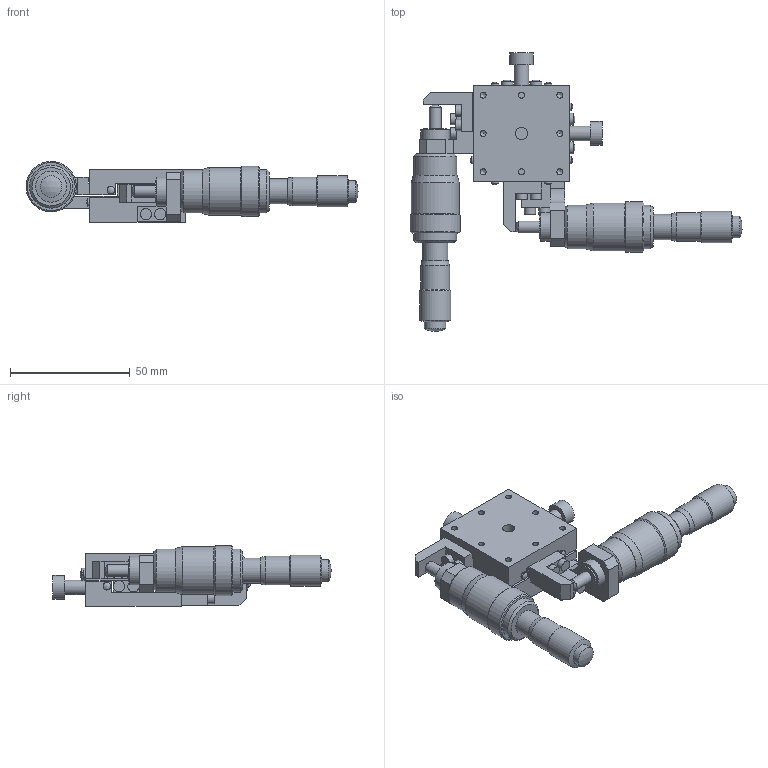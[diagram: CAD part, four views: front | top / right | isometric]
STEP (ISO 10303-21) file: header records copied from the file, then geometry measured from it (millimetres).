
FILE_DESCRIPTION( ( 'STEP AP214' ), '1' );
FILE_NAME( 'C:/Project/3D_B23-40D-配布-070508.stp', '2007-05-08T10:43:01', ( ' ' ), ( ' ' ), 'XStep 1.0', ' ', ' ' );
FILE_SCHEMA( ( 'automotive_design' ) );
Length unit declared in the file: millimetre
Products named in the file (5): 1; 2; 3; 4; 5
Bounding box: 138.46 x 116.11 x 25.5 mm (x, y, z)
Volume: 70825.5 mm3; surface area: 35797.3 mm2
Topology: 5 solids, 5 shells, 300 faces, 728 edges, 477 vertices
Faces by surface type: plane 166, cylinder 96, cone 22, sphere 16
Full cylindrical faces by diameter (mm): 2.5 x14, 3 x2, 3.2 x8, 3.5 x4, 4.7 x8, 5 x9, 6 x2, 9 x2, 9.5 x2, 10 x2, 10.5 x4, 12 x4, 13 x2, 18 x4, 20 x2, 21 x2
Entity records: 10406 total; most frequent: DIRECTION 1404, CARTESIAN_POINT 1327, ORIENTED_EDGE 1172, EDGE_CURVE 586, AXIS2_PLACEMENT_3D 513, EDGE_LOOP 456, VERTEX_POINT 436, LINE 378
